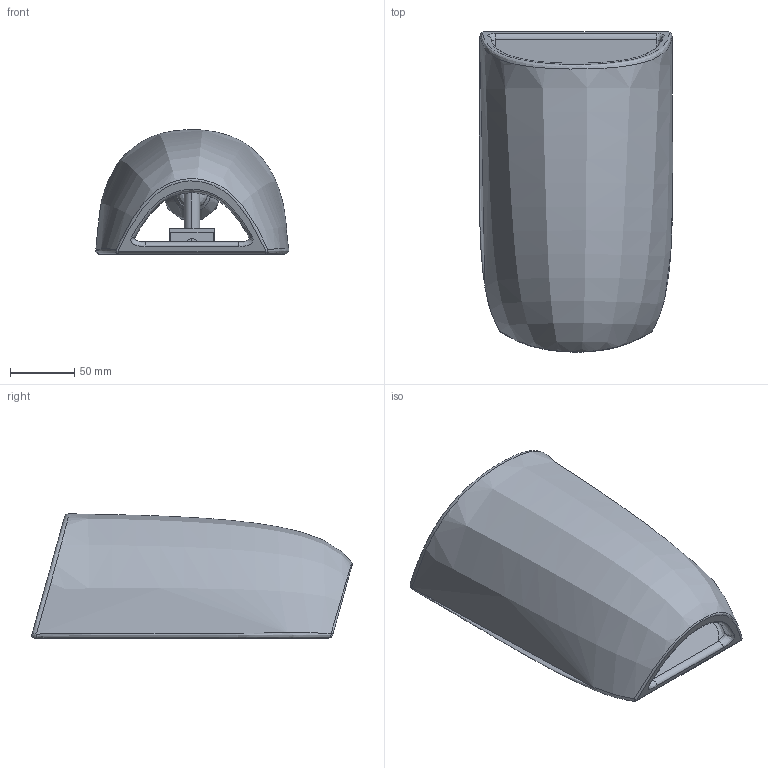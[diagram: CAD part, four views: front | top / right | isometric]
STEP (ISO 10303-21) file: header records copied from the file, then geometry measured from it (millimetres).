
FILE_DESCRIPTION(/* description */ (''),/* implementation_level */ '2;1');
FILE_NAME(/* name */ '63428.step',/* time_stamp */ '2024-09-24T09:05:00+02:00',/* author */ ('RenataManzini'),/* organization */ (''),/* preprocessor_version */ 'ST-DEVELOPER v20',/* originating_system */ 'AutoCAD Mechanical',/* authorisation */ '');
FILE_SCHEMA (('AUTOMOTIVE_DESIGN { 1 0 10303 214 3 1 1 }'));
Length unit declared in the file: millimetre
Products named in the file (2): Product; kappu_158 - Kappu-458863-_3D_
Assembly tree (1 placements, depth 2):
  Product
    kappu_158 - Kappu-458863-_3D_
Bounding box: 150.97 x 250.05 x 97.15 mm (x, y, z)
Volume: 101516.5 mm3; surface area: 207736.1 mm2
Topology: 7 solids, 8 shells, 125 faces, 291 edges, 183 vertices
Faces by surface type: plane 55, cylinder 32, bspline 28, cone 10
Entity records: 9071 total; most frequent: CARTESIAN_POINT 6299, ORIENTED_EDGE 570, DIRECTION 497, EDGE_CURVE 286, VERTEX_POINT 178, AXIS2_PLACEMENT_3D 175, LINE 147, VECTOR 147
